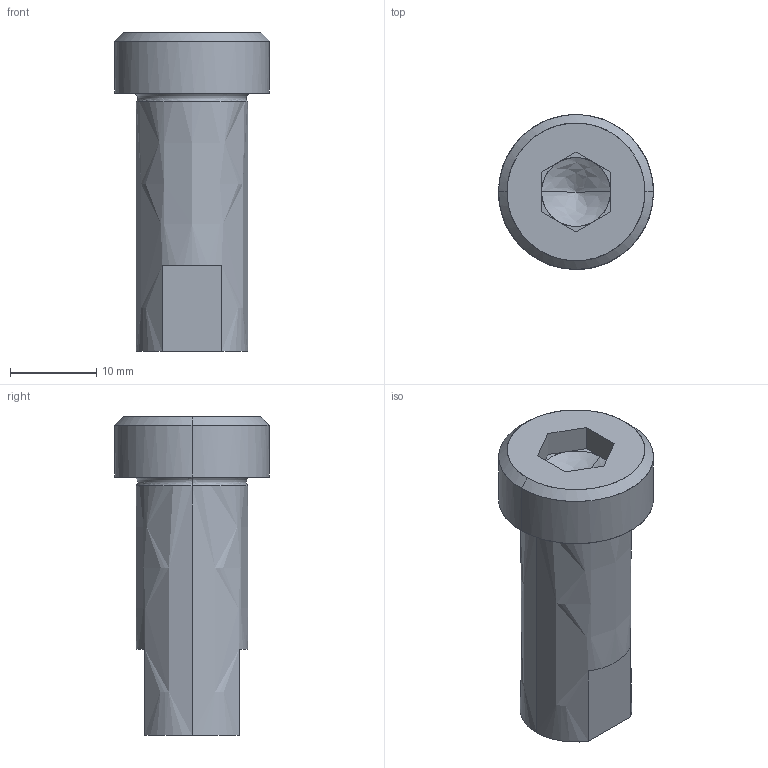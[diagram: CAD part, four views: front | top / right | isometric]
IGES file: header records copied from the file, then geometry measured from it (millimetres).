
Global section: file name: E:\UnigraphicsGraphicData\MISUMI_PRESS-PARTS\IGES\3d_sbtn13-30_00141_r00.igs; native system: NX V5.0; preprocessor: UGS NX IGES V5.0; author: MISUMI; date: 20110105.162506; units: millimetre
Bounding box: 18 x 18 x 37 mm (x, y, z)
Surface area: 2496.6 mm2 (no closed solid volume)
Topology: 0 solids, 0 shells, 38 faces, 212 edges, 208 vertices
Faces by surface type: bspline 38
